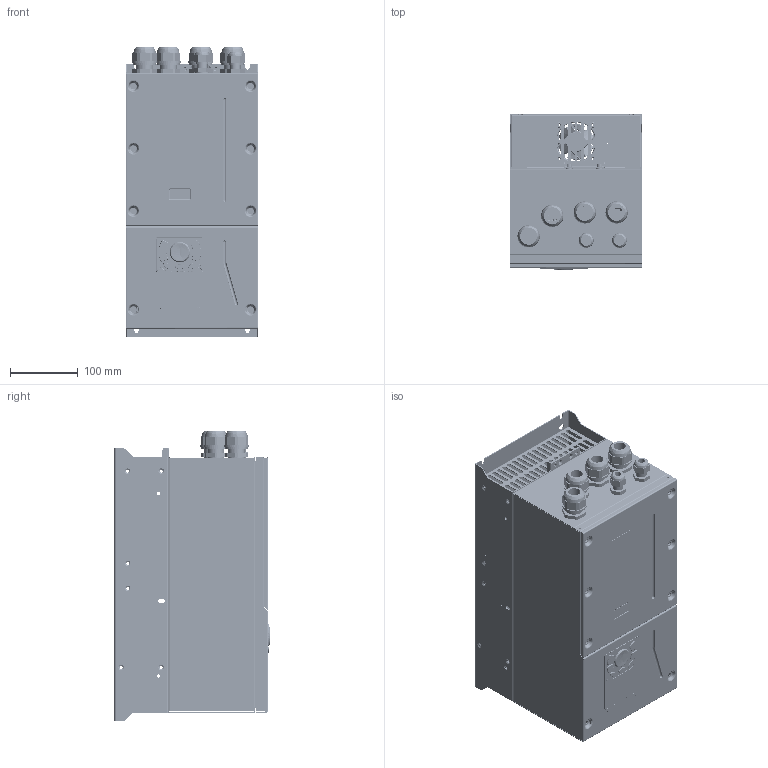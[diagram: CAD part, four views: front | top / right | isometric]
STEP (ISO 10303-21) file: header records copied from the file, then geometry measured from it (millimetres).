
FILE_DESCRIPTION((''),'2;1');
FILE_NAME('GD350-5R5G-45-AS_ASM_2_ASM','2025-07-31T15:32:01',('Administrator'),(''),'CREO PARAMETRIC BY PTC INC, 2019080','CREO PARAMETRIC BY PTC INC, 2019080','');
FILE_SCHEMA(('CONFIG_CONTROL_DESIGN'));
Products named in the file (68): 2-21-19-062-BP602524HL22_1; 88170501_1; GD350-MODEL_1; 39003-00077_1; PCG-M25-18-B-1_1; 2-21-19-062-BP602524HL_1; CH-LD-5R5-DRIVE_PCB_1; TB1100-08_BODY_02_1; TB1100-08_TER_02_1; TB1300-02_LUODING_02_1; TB1300-02_WADIAN_02_1; TB1300-02_LUODINGASM_02_ASM_1_ASM; TB1100-08-02_ASM_1_ASM; CH-LD-5R5-DRIVE_PCB_ASM_1_ASM; PA1704_CT1_A2_1; E-DIN0309-5_08MM-TA_1; E-DIN0302-5_08MM-TA_1; E-USB08-TF_1; E-IDC34-ORM1_1; E-MJ0204-R_1; E-MJ0204-100T_1; PA1704_CT1_A2_ASM_1_ASM; 0_GD350_PCB_IP54_ASM_1_ASM; 80780094_1; 86410040_1; 86410040SY_1; 86410040SY_ASM_1_ASM; GD350-5R5G-45-AS-ES_ASM_1_ASM; 80310614_2; 80310614_ASM_2_ASM; 80483088_2; S-M4-ZC_2; ZS-M5-ZC_2; 80483088_ASM_2_ASM; 80483087_2; YMD-55-0D8-SL_2; 80483087_ASM_2_ASM; 80386668_2; ZS-M4-ZC_2; 80386668_ASM_2_ASM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
Assembly tree (111 placements, depth 6):
  GD350-5R5G-45-AS_ASM_2_ASM
    GD350-5R5G-45-AS-ES_ASM_1_ASM
      2-21-19-062-BP602524HL22_1
      88170501_1
      GD350-MODEL_1
      39003-00077_1  x2
      PCG-M25-18-B-1_1  x4
      2-21-19-062-BP602524HL_1
      CH-LD-5R5-DRIVE_PCB_ASM_1_ASM
        CH-LD-5R5-DRIVE_PCB_1
        TB1100-08-02_ASM_1_ASM
          TB1100-08_BODY_02_1
          TB1100-08_TER_02_1  x9
          TB1300-02_LUODINGASM_02_ASM_1_ASM  x9
            TB1300-02_LUODING_02_1
            TB1300-02_WADIAN_02_1
      0_GD350_PCB_IP54_ASM_1_ASM
        PA1704_CT1_A2_ASM_1_ASM
          PA1704_CT1_A2_1
          E-DIN0309-5_08MM-TA_1
          E-DIN0302-5_08MM-TA_1
          E-USB08-TF_1
          E-IDC34-ORM1_1
          E-MJ0204-R_1
          E-MJ0204-100T_1
      80780094_1
      86410040SY_ASM_1_ASM
        86410040_1
        86410040SY_1
    41060180_ASM_2_ASM
      61210529_ASM_2_ASM
        80310614_ASM_2_ASM
          80310614_2
        80483088_ASM_2_ASM
          80483088_2
          S-M4-ZC_2  x5
          ZS-M5-ZC_2  x2
        80483087_ASM_2_ASM
          80483087_2
          YMD-55-0D8-SL_2  x2
        80386668_ASM_2_ASM
          80386668_2
          ZS-M4-ZC_2  x2
      61061639_ASM_2_ASM
        80340246_ASM_2_ASM
          80340246_2
      61761434_ASM_2_ASM
        80340244_ASM_2_ASM
          80340244_2
          FH-M3-10-ZC_2  x6
          YMD-55-0D8-SL_2  x4
        61761434SY_2
        80440867_2  x4
        78400219_2  x2
        78400157_2  x2
      61761794SY_ASM_2_ASM
        61761794_ASM_2_ASM
          80340282_ASM_2_ASM
            80340282_2
            YMD-55-0D8-SL_2  x2
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Bounding box: 196 x 229.1 x 428.5 mm (x, y, z)
Volume: 1175862.7 mm3; surface area: 1569059.3 mm2
Topology: 91 solids, 91 shells, 12489 faces, 33651 edges, 21823 vertices
Faces by surface type: plane 8972, cylinder 2008, cone 689, bspline 480, torus 248, extrusion 48, revolution 28, sphere 16
Entity records: 225729 total; most frequent: CARTESIAN_POINT 56144, ORIENTED_EDGE 35302, DIRECTION 34106, EDGE_CURVE 17651, VECTOR 12858, LINE 12810, VERTEX_POINT 11377, AXIS2_PLACEMENT_3D 10610
